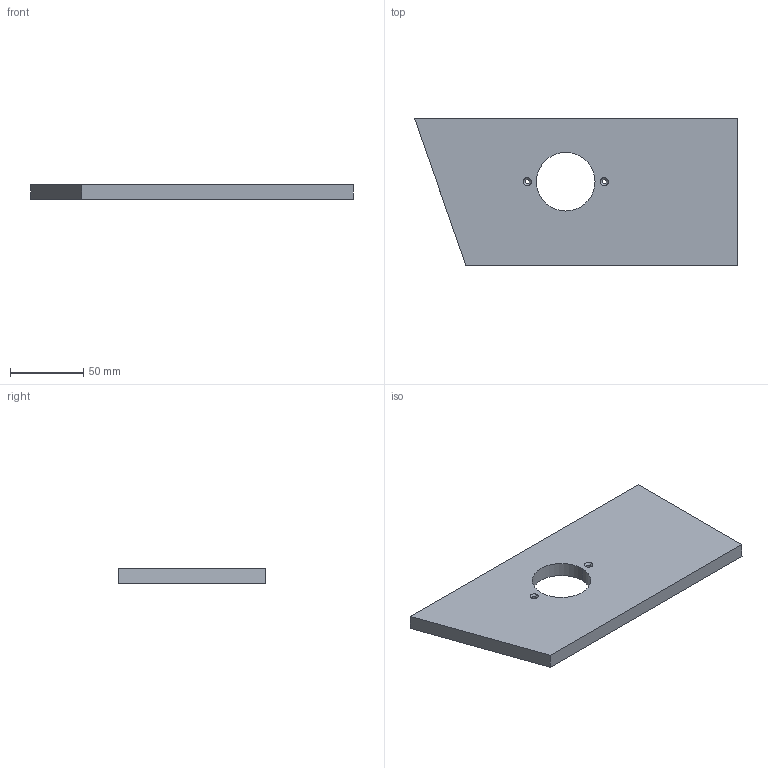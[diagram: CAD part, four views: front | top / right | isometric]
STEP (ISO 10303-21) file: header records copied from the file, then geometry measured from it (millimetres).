
FILE_DESCRIPTION(('STEP AP214'),'1');
FILE_NAME('tmp0.step','2026-06-16T19:18:52',(' '),(' '),'Spatial InterOp 3D',' ',' ');
FILE_SCHEMA(('AUTOMOTIVE_DESIGN { 1 0 10303 214 1 1 1 1 }'));
Length unit declared in the file: millimetre
Products named in the file (1): 1
Bounding box: 220 x 100 x 10.03 mm (x, y, z)
Volume: 189630.9 mm3; surface area: 45493.5 mm2
Topology: 1 solids, 1 shells, 20 faces, 56 edges, 38 vertices
Faces by surface type: cone 8, cylinder 6, plane 6
Entity records: 3155 total; most frequent: CARTESIAN_POINT 2591, DIRECTION 112, ORIENTED_EDGE 112, EDGE_CURVE 56, AXIS2_PLACEMENT_3D 43, VERTEX_POINT 38, EDGE_LOOP 26, LINE 26
